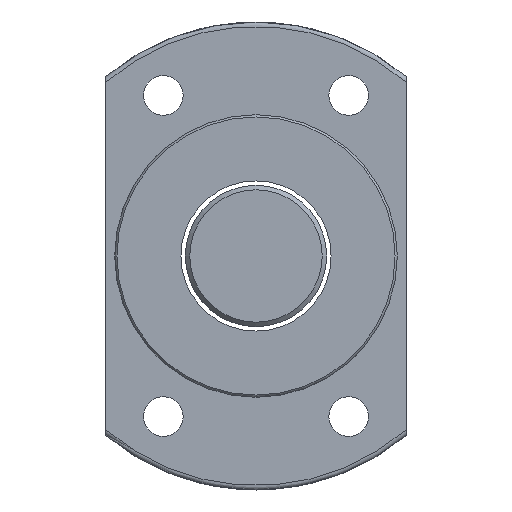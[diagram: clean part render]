
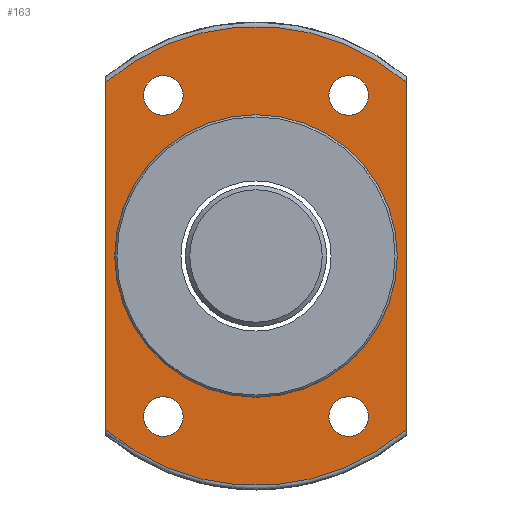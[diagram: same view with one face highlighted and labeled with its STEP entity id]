
A CAD part, left-side view. The second image highlights one B-rep face of the part: STEP entity #163.
In plain terms, the highlighted planar face has unit normal (-1, 0, 0).
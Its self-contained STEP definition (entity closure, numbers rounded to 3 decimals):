
#103=LINE('',#989,#111);
#104=LINE('',#990,#112);
#111=VECTOR('',#711,1.);
#112=VECTOR('',#712,1.);
#163=ADVANCED_FACE('',(#230,#231,#232,#233,#234,#204),#186,.F.);
#186=PLANE('',#594);
#204=FACE_OUTER_BOUND('',#290,.T.);
#230=FACE_BOUND('',#285,.T.);
#231=FACE_BOUND('',#286,.T.);
#232=FACE_BOUND('',#287,.T.);
#233=FACE_BOUND('',#288,.T.);
#234=FACE_BOUND('',#289,.T.);
#285=EDGE_LOOP('',(#370));
#286=EDGE_LOOP('',(#371));
#287=EDGE_LOOP('',(#372));
#288=EDGE_LOOP('',(#373));
#289=EDGE_LOOP('',(#374));
#290=EDGE_LOOP('',(#375,#376,#377,#378));
#370=ORIENTED_EDGE('',*,*,#501,.T.);
#371=ORIENTED_EDGE('',*,*,#502,.T.);
#372=ORIENTED_EDGE('',*,*,#503,.T.);
#373=ORIENTED_EDGE('',*,*,#504,.T.);
#374=ORIENTED_EDGE('',*,*,#505,.F.);
#375=ORIENTED_EDGE('',*,*,#499,.T.);
#376=ORIENTED_EDGE('',*,*,#506,.T.);
#377=ORIENTED_EDGE('',*,*,#482,.T.);
#378=ORIENTED_EDGE('',*,*,#507,.F.);
#439=VERTEX_POINT('',#847);
#440=VERTEX_POINT('',#848);
#450=VERTEX_POINT('',#956);
#451=VERTEX_POINT('',#958);
#452=VERTEX_POINT('',#980);
#453=VERTEX_POINT('',#982);
#454=VERTEX_POINT('',#984);
#455=VERTEX_POINT('',#986);
#456=VERTEX_POINT('',#988);
#482=EDGE_CURVE('',#439,#440,#529,.T.);
#499=EDGE_CURVE('',#451,#450,#537,.T.);
#501=EDGE_CURVE('',#452,#452,#538,.T.);
#502=EDGE_CURVE('',#453,#453,#539,.T.);
#503=EDGE_CURVE('',#454,#454,#540,.T.);
#504=EDGE_CURVE('',#455,#455,#541,.T.);
#505=EDGE_CURVE('',#456,#456,#542,.T.);
#506=EDGE_CURVE('',#450,#439,#103,.T.);
#507=EDGE_CURVE('',#451,#440,#104,.T.);
#529=CIRCLE('',#575,26.);
#537=CIRCLE('',#587,26.);
#538=CIRCLE('',#589,2.25);
#539=CIRCLE('',#590,2.25);
#540=CIRCLE('',#591,2.25);
#541=CIRCLE('',#592,2.25);
#542=CIRCLE('',#593,16.);
#575=AXIS2_PLACEMENT_3D('',#846,#669,#670);
#587=AXIS2_PLACEMENT_3D('',#957,#697,#698);
#589=AXIS2_PLACEMENT_3D('',#979,#701,#702);
#590=AXIS2_PLACEMENT_3D('',#981,#703,#704);
#591=AXIS2_PLACEMENT_3D('',#983,#705,#706);
#592=AXIS2_PLACEMENT_3D('',#985,#707,#708);
#593=AXIS2_PLACEMENT_3D('',#987,#709,#710);
#594=AXIS2_PLACEMENT_3D('',#991,#713,#714);
#669=DIRECTION('',(-1.,0.,0.));
#670=DIRECTION('',(0.,0.,1.));
#697=DIRECTION('',(-1.,0.,0.));
#698=DIRECTION('',(0.,0.,1.));
#701=DIRECTION('',(1.,0.,0.));
#702=DIRECTION('',(0.,0.,-1.));
#703=DIRECTION('',(1.,0.,0.));
#704=DIRECTION('',(0.,0.,-1.));
#705=DIRECTION('',(1.,0.,0.));
#706=DIRECTION('',(0.,0.,-1.));
#707=DIRECTION('',(1.,0.,0.));
#708=DIRECTION('',(0.,0.,-1.));
#709=DIRECTION('',(-1.,0.,0.));
#710=DIRECTION('',(0.,0.,1.));
#711=DIRECTION('',(0.,0.,-1.));
#712=DIRECTION('',(0.,0.,-1.));
#713=DIRECTION('',(1.,0.,0.));
#714=DIRECTION('',(0.,0.,-1.));
#846=CARTESIAN_POINT('',(-35.1,0.,0.));
#847=CARTESIAN_POINT('',(-35.1,17.,-19.672));
#848=CARTESIAN_POINT('',(-35.1,-17.,-19.672));
#956=CARTESIAN_POINT('',(-35.1,17.,19.672));
#957=CARTESIAN_POINT('',(-35.1,0.,0.));
#958=CARTESIAN_POINT('',(-35.1,-17.,19.672));
#979=CARTESIAN_POINT('',(-35.1,10.5,-18.19));
#980=CARTESIAN_POINT('',(-35.1,10.5,-20.44));
#981=CARTESIAN_POINT('',(-35.1,-10.5,-18.19));
#982=CARTESIAN_POINT('',(-35.1,-10.5,-20.44));
#983=CARTESIAN_POINT('',(-35.1,-10.5,18.19));
#984=CARTESIAN_POINT('',(-35.1,-10.5,15.94));
#985=CARTESIAN_POINT('',(-35.1,10.5,18.19));
#986=CARTESIAN_POINT('',(-35.1,10.5,15.94));
#987=CARTESIAN_POINT('',(-35.1,0.,0.));
#988=CARTESIAN_POINT('',(-35.1,0.,16.));
#989=CARTESIAN_POINT('',(-35.1,17.,0.));
#990=CARTESIAN_POINT('',(-35.1,-17.,0.));
#991=CARTESIAN_POINT('',(-35.1,21.,0.));
